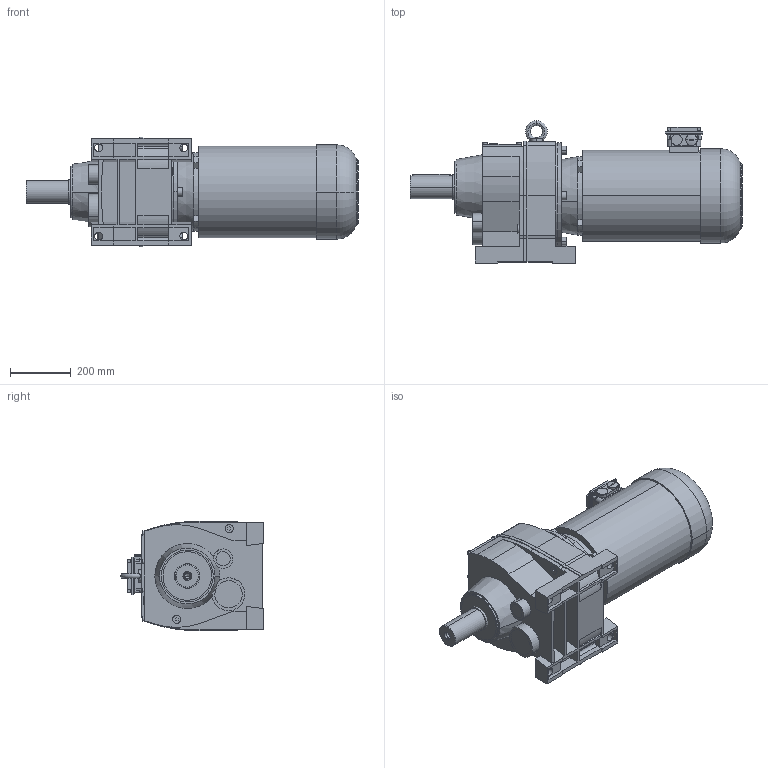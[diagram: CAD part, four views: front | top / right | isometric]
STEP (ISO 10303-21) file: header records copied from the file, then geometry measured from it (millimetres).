
FILE_DESCRIPTION(('STEP AP214'),'1');
FILE_NAME('STEP-File.stp','2018-01-01T00:00:00',(' '),('KEB'),' ','KEB-DRIVE',' ');
FILE_SCHEMA(('AUTOMOTIVE_DESIGN { 1 0 10303 214 1 1 1 1 }'));
Length unit declared in the file: millimetre
Products named in the file (9): g7a; w7_we_75x140; cs7; dm160_kkn; kk10; PLUG_M32; SCREW-PLUG_M32; ndm160; G73A DM160LB4§CAD13
Assembly tree (8 placements, depth 2):
  G73A DM160LB4§CAD13
    g7a
    w7_we_75x140
    cs7
    dm160_kkn
    kk10
    PLUG_M32
    SCREW-PLUG_M32
    ndm160
Bounding box: 1092.49 x 469 x 360 mm (x, y, z)
Volume: 76414912.8 mm3; surface area: 2032914.8 mm2
Topology: 8 solids, 8 shells, 411 faces, 1041 edges, 684 vertices
Faces by surface type: plane 266, cylinder 109, cone 20, torus 16
Entity records: 14340 total; most frequent: CARTESIAN_POINT 4507, ORIENTED_EDGE 2078, DIRECTION 1823, EDGE_CURVE 1039, VERTEX_POINT 684, VECTOR 679, LINE 679, AXIS2_PLACEMENT_3D 572
